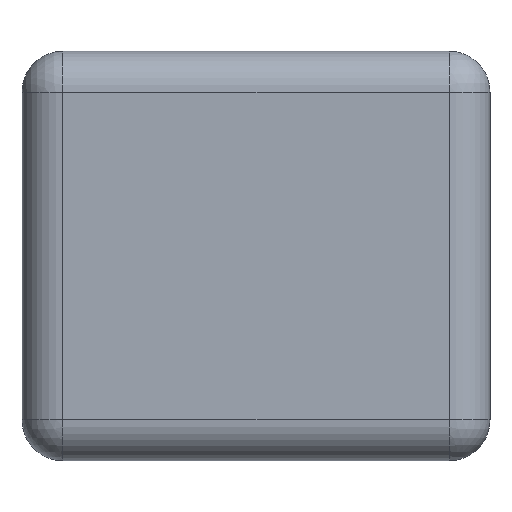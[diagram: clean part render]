
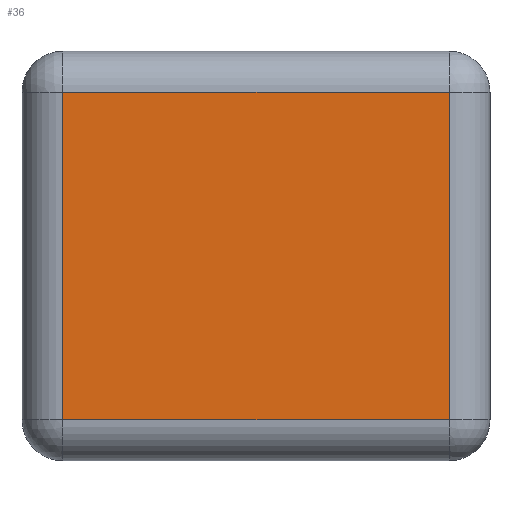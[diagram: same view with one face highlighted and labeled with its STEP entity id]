
A CAD part, left-side view. The second image highlights one B-rep face of the part: STEP entity #36.
In plain terms, the highlighted planar face has unit normal (-1, 0, 0).
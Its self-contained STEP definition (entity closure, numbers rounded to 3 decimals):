
#36 = ADVANCED_FACE('',(#37),#51,.F.);
#37 = FACE_BOUND('',#38,.F.);
#38 = EDGE_LOOP('',(#39,#74,#102,#130));
#39 = ORIENTED_EDGE('',*,*,#40,.F.);
#40 = EDGE_CURVE('',#41,#43,#45,.T.);
#41 = VERTEX_POINT('',#42);
#42 = CARTESIAN_POINT('',(-2.3,-1.32,0.28));
#43 = VERTEX_POINT('',#44);
#44 = CARTESIAN_POINT('',(-2.3,-1.32,2.52));
#45 = SURFACE_CURVE('',#46,(#50,#62),.PCURVE_S1.);
#46 = LINE('',#47,#48);
#47 = CARTESIAN_POINT('',(-2.3,-1.32,0.));
#48 = VECTOR('',#49,1.);
#49 = DIRECTION('',(0.,0.,1.));
#50 = PCURVE('',#51,#56);
#51 = PLANE('',#52);
#52 = AXIS2_PLACEMENT_3D('',#53,#54,#55);
#53 = CARTESIAN_POINT('',(-2.3,-1.6,0.));
#54 = DIRECTION('',(1.,0.,0.));
#55 = DIRECTION('',(0.,0.,1.));
#56 = DEFINITIONAL_REPRESENTATION('',(#57),#61);
#57 = LINE('',#58,#59);
#58 = CARTESIAN_POINT('',(0.,-0.28));
#59 = VECTOR('',#60,1.);
#60 = DIRECTION('',(1.,0.));
#61 = ( GEOMETRIC_REPRESENTATION_CONTEXT(2) 
PARAMETRIC_REPRESENTATION_CONTEXT() REPRESENTATION_CONTEXT('2D SPACE',''
  ) );
#62 = PCURVE('',#63,#68);
#63 = CYLINDRICAL_SURFACE('',#64,0.28);
#64 = AXIS2_PLACEMENT_3D('',#65,#66,#67);
#65 = CARTESIAN_POINT('',(-2.02,-1.32,0.));
#66 = DIRECTION('',(0.,0.,1.));
#67 = DIRECTION('',(-1.,-0.,0.));
#68 = DEFINITIONAL_REPRESENTATION('',(#69),#73);
#69 = LINE('',#70,#71);
#70 = CARTESIAN_POINT('',(0.,0.));
#71 = VECTOR('',#72,1.);
#72 = DIRECTION('',(0.,1.));
#73 = ( GEOMETRIC_REPRESENTATION_CONTEXT(2) 
PARAMETRIC_REPRESENTATION_CONTEXT() REPRESENTATION_CONTEXT('2D SPACE',''
  ) );
#74 = ORIENTED_EDGE('',*,*,#75,.T.);
#75 = EDGE_CURVE('',#41,#76,#78,.T.);
#76 = VERTEX_POINT('',#77);
#77 = CARTESIAN_POINT('',(-2.3,1.32,0.28));
#78 = SURFACE_CURVE('',#79,(#83,#90),.PCURVE_S1.);
#79 = LINE('',#80,#81);
#80 = CARTESIAN_POINT('',(-2.3,-1.6,0.28));
#81 = VECTOR('',#82,1.);
#82 = DIRECTION('',(0.,1.,0.));
#83 = PCURVE('',#51,#84);
#84 = DEFINITIONAL_REPRESENTATION('',(#85),#89);
#85 = LINE('',#86,#87);
#86 = CARTESIAN_POINT('',(0.28,0.));
#87 = VECTOR('',#88,1.);
#88 = DIRECTION('',(0.,-1.));
#89 = ( GEOMETRIC_REPRESENTATION_CONTEXT(2) 
PARAMETRIC_REPRESENTATION_CONTEXT() REPRESENTATION_CONTEXT('2D SPACE',''
  ) );
#90 = PCURVE('',#91,#96);
#91 = CYLINDRICAL_SURFACE('',#92,0.28);
#92 = AXIS2_PLACEMENT_3D('',#93,#94,#95);
#93 = CARTESIAN_POINT('',(-2.02,-1.6,0.28));
#94 = DIRECTION('',(0.,1.,0.));
#95 = DIRECTION('',(-1.,0.,0.));
#96 = DEFINITIONAL_REPRESENTATION('',(#97),#101);
#97 = LINE('',#98,#99);
#98 = CARTESIAN_POINT('',(-0.,0.));
#99 = VECTOR('',#100,1.);
#100 = DIRECTION('',(-0.,1.));
#101 = ( GEOMETRIC_REPRESENTATION_CONTEXT(2) 
PARAMETRIC_REPRESENTATION_CONTEXT() REPRESENTATION_CONTEXT('2D SPACE',''
  ) );
#102 = ORIENTED_EDGE('',*,*,#103,.T.);
#103 = EDGE_CURVE('',#76,#104,#106,.T.);
#104 = VERTEX_POINT('',#105);
#105 = CARTESIAN_POINT('',(-2.3,1.32,2.52));
#106 = SURFACE_CURVE('',#107,(#111,#118),.PCURVE_S1.);
#107 = LINE('',#108,#109);
#108 = CARTESIAN_POINT('',(-2.3,1.32,0.));
#109 = VECTOR('',#110,1.);
#110 = DIRECTION('',(0.,0.,1.));
#111 = PCURVE('',#51,#112);
#112 = DEFINITIONAL_REPRESENTATION('',(#113),#117);
#113 = LINE('',#114,#115);
#114 = CARTESIAN_POINT('',(0.,-2.92));
#115 = VECTOR('',#116,1.);
#116 = DIRECTION('',(1.,0.));
#117 = ( GEOMETRIC_REPRESENTATION_CONTEXT(2) 
PARAMETRIC_REPRESENTATION_CONTEXT() REPRESENTATION_CONTEXT('2D SPACE',''
  ) );
#118 = PCURVE('',#119,#124);
#119 = CYLINDRICAL_SURFACE('',#120,0.28);
#120 = AXIS2_PLACEMENT_3D('',#121,#122,#123);
#121 = CARTESIAN_POINT('',(-2.02,1.32,0.));
#122 = DIRECTION('',(0.,0.,1.));
#123 = DIRECTION('',(-1.,-0.,0.));
#124 = DEFINITIONAL_REPRESENTATION('',(#125),#129);
#125 = LINE('',#126,#127);
#126 = CARTESIAN_POINT('',(-0.,0.));
#127 = VECTOR('',#128,1.);
#128 = DIRECTION('',(-0.,1.));
#129 = ( GEOMETRIC_REPRESENTATION_CONTEXT(2) 
PARAMETRIC_REPRESENTATION_CONTEXT() REPRESENTATION_CONTEXT('2D SPACE',''
  ) );
#130 = ORIENTED_EDGE('',*,*,#131,.F.);
#131 = EDGE_CURVE('',#43,#104,#132,.T.);
#132 = SURFACE_CURVE('',#133,(#137,#144),.PCURVE_S1.);
#133 = LINE('',#134,#135);
#134 = CARTESIAN_POINT('',(-2.3,-1.6,2.52));
#135 = VECTOR('',#136,1.);
#136 = DIRECTION('',(0.,1.,0.));
#137 = PCURVE('',#51,#138);
#138 = DEFINITIONAL_REPRESENTATION('',(#139),#143);
#139 = LINE('',#140,#141);
#140 = CARTESIAN_POINT('',(2.52,0.));
#141 = VECTOR('',#142,1.);
#142 = DIRECTION('',(0.,-1.));
#143 = ( GEOMETRIC_REPRESENTATION_CONTEXT(2) 
PARAMETRIC_REPRESENTATION_CONTEXT() REPRESENTATION_CONTEXT('2D SPACE',''
  ) );
#144 = PCURVE('',#145,#150);
#145 = CYLINDRICAL_SURFACE('',#146,0.28);
#146 = AXIS2_PLACEMENT_3D('',#147,#148,#149);
#147 = CARTESIAN_POINT('',(-2.02,-1.6,2.52));
#148 = DIRECTION('',(0.,1.,0.));
#149 = DIRECTION('',(-1.,0.,0.));
#150 = DEFINITIONAL_REPRESENTATION('',(#151),#155);
#151 = LINE('',#152,#153);
#152 = CARTESIAN_POINT('',(0.,0.));
#153 = VECTOR('',#154,1.);
#154 = DIRECTION('',(0.,1.));
#155 = ( GEOMETRIC_REPRESENTATION_CONTEXT(2) 
PARAMETRIC_REPRESENTATION_CONTEXT() REPRESENTATION_CONTEXT('2D SPACE',''
  ) );
